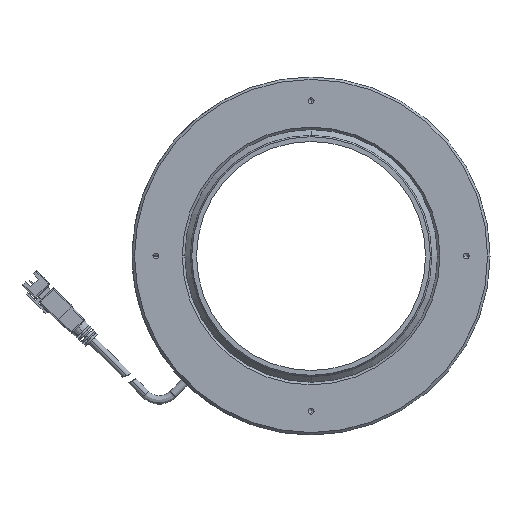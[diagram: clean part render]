
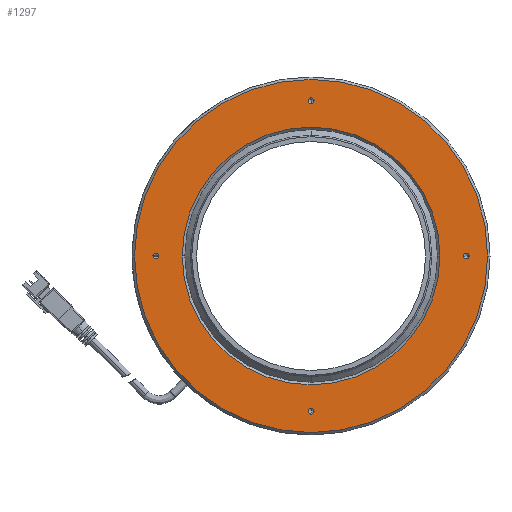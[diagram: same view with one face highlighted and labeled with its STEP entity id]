
A CAD part, front view. The second image highlights one B-rep face of the part: STEP entity #1297.
In plain terms, the highlighted planar face has unit normal (0, -1, 0).
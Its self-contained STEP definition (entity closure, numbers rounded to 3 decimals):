
#191 = ORIENTED_EDGE ( 'NONE', *, *, #9584, .F. ) ;
#343 = CARTESIAN_POINT ( 'NONE',  ( -65., 0., 0. ) ) ;
#394 = VERTEX_POINT ( 'NONE', #12977 ) ;
#458 = CIRCLE ( 'NONE', #7825, 54. ) ;
#492 = DIRECTION ( 'NONE',  ( 0., -1., 0. ) ) ;
#668 = DIRECTION ( 'NONE',  ( 0., 0., -1. ) ) ;
#747 = CARTESIAN_POINT ( 'NONE',  ( 0., 0., 0. ) ) ;
#752 = EDGE_LOOP ( 'NONE', ( #10690, #2687 ) ) ;
#789 = DIRECTION ( 'NONE',  ( 0., 0., 1. ) ) ;
#815 = EDGE_LOOP ( 'NONE', ( #13356, #191 ) ) ;
#874 = FACE_BOUND ( 'NONE', #815, .T. ) ;
#1018 = CARTESIAN_POINT ( 'NONE',  ( -65., 0., 0. ) ) ;
#1083 = DIRECTION ( 'NONE',  ( 1., 0., 0. ) ) ;
#1181 = ORIENTED_EDGE ( 'NONE', *, *, #4880, .F. ) ;
#1297 = ADVANCED_FACE ( 'NONE', ( #6059, #2923, #8156, #874, #12292, #1968 ), #8974, .T. ) ;
#1503 = CARTESIAN_POINT ( 'NONE',  ( 0., 0., 0. ) ) ;
#1519 = EDGE_LOOP ( 'NONE', ( #6631, #8469 ) ) ;
#1575 = DIRECTION ( 'NONE',  ( 0., -1., 0. ) ) ;
#1650 = VERTEX_POINT ( 'NONE', #4889 ) ;
#1721 = EDGE_CURVE ( 'NONE', #1963, #394, #2086, .T. ) ;
#1788 = EDGE_LOOP ( 'NONE', ( #1181, #12168 ) ) ;
#1881 = DIRECTION ( 'NONE',  ( 0., -1., 0. ) ) ;
#1963 = VERTEX_POINT ( 'NONE', #5323 ) ;
#1968 = FACE_BOUND ( 'NONE', #1788, .T. ) ;
#2041 = VERTEX_POINT ( 'NONE', #3402 ) ;
#2060 = CARTESIAN_POINT ( 'NONE',  ( 0., 0., 0. ) ) ;
#2086 = CIRCLE ( 'NONE', #6231, 1.25 ) ;
#2213 = AXIS2_PLACEMENT_3D ( 'NONE', #1018, #12631, #1083 ) ;
#2339 = DIRECTION ( 'NONE',  ( 0., 0., -1. ) ) ;
#2360 = CIRCLE ( 'NONE', #5403, 1.25 ) ;
#2530 = CIRCLE ( 'NONE', #10769, 54. ) ;
#2646 = DIRECTION ( 'NONE',  ( 0., -1., 0. ) ) ;
#2647 = CIRCLE ( 'NONE', #2213, 1.25 ) ;
#2687 = ORIENTED_EDGE ( 'NONE', *, *, #10760, .T. ) ;
#2697 = DIRECTION ( 'NONE',  ( 0., 0., 1. ) ) ;
#2923 = FACE_BOUND ( 'NONE', #11798, .T. ) ;
#2959 = DIRECTION ( 'NONE',  ( 0., -1., 0. ) ) ;
#3026 = EDGE_CURVE ( 'NONE', #1650, #4060, #5433, .T. ) ;
#3092 = AXIS2_PLACEMENT_3D ( 'NONE', #10876, #1575, #10741 ) ;
#3246 = VERTEX_POINT ( 'NONE', #6552 ) ;
#3379 = EDGE_CURVE ( 'NONE', #7114, #8617, #2647, .T. ) ;
#3402 = CARTESIAN_POINT ( 'NONE',  ( 0., 0., -54. ) ) ;
#3597 = ORIENTED_EDGE ( 'NONE', *, *, #3026, .F. ) ;
#3860 = CARTESIAN_POINT ( 'NONE',  ( 0., 0., -65. ) ) ;
#3980 = AXIS2_PLACEMENT_3D ( 'NONE', #2060, #10275, #12244 ) ;
#4060 = VERTEX_POINT ( 'NONE', #5938 ) ;
#4191 = CIRCLE ( 'NONE', #3092, 1.25 ) ;
#4738 = AXIS2_PLACEMENT_3D ( 'NONE', #343, #2646, #4753 ) ;
#4753 = DIRECTION ( 'NONE',  ( 1., 0., 0. ) ) ;
#4759 = DIRECTION ( 'NONE',  ( 0., -1., 0. ) ) ;
#4777 = CARTESIAN_POINT ( 'NONE',  ( 0., 0., 54. ) ) ;
#4786 = CIRCLE ( 'NONE', #12379, 1.25 ) ;
#4880 = EDGE_CURVE ( 'NONE', #2041, #6755, #2530, .T. ) ;
#4889 = CARTESIAN_POINT ( 'NONE',  ( 66.25, 0., 0. ) ) ;
#4941 = CARTESIAN_POINT ( 'NONE',  ( 0., 0., -65. ) ) ;
#5046 = DIRECTION ( 'NONE',  ( 0., -1., 0. ) ) ;
#5323 = CARTESIAN_POINT ( 'NONE',  ( 0., 0., -66.25 ) ) ;
#5371 = VERTEX_POINT ( 'NONE', #6542 ) ;
#5403 = AXIS2_PLACEMENT_3D ( 'NONE', #4941, #2959, #2697 ) ;
#5433 = CIRCLE ( 'NONE', #9547, 1.25 ) ;
#5848 = CARTESIAN_POINT ( 'NONE',  ( 0., 0., 65. ) ) ;
#5938 = CARTESIAN_POINT ( 'NONE',  ( 63.75, 0., 0. ) ) ;
#6013 = AXIS2_PLACEMENT_3D ( 'NONE', #747, #4759, #9035 ) ;
#6042 = DIRECTION ( 'NONE',  ( 0., 0., -1. ) ) ;
#6059 = FACE_BOUND ( 'NONE', #1519, .T. ) ;
#6128 = AXIS2_PLACEMENT_3D ( 'NONE', #5848, #9975, #668 ) ;
#6231 = AXIS2_PLACEMENT_3D ( 'NONE', #3860, #10098, #789 ) ;
#6288 = DIRECTION ( 'NONE',  ( 0., -1., 0. ) ) ;
#6375 = CARTESIAN_POINT ( 'NONE',  ( -63.75, 0., 0. ) ) ;
#6387 = VERTEX_POINT ( 'NONE', #7918 ) ;
#6542 = CARTESIAN_POINT ( 'NONE',  ( 0., 0., -74. ) ) ;
#6552 = CARTESIAN_POINT ( 'NONE',  ( 0., 0., 74. ) ) ;
#6631 = ORIENTED_EDGE ( 'NONE', *, *, #3379, .F. ) ;
#6755 = VERTEX_POINT ( 'NONE', #4777 ) ;
#7013 = AXIS2_PLACEMENT_3D ( 'NONE', #1503, #492, #2339 ) ;
#7114 = VERTEX_POINT ( 'NONE', #6375 ) ;
#7207 = EDGE_CURVE ( 'NONE', #8617, #7114, #10579, .T. ) ;
#7307 = CARTESIAN_POINT ( 'NONE',  ( 65., 0., 0. ) ) ;
#7445 = CIRCLE ( 'NONE', #7013, 74. ) ;
#7552 = VERTEX_POINT ( 'NONE', #7781 ) ;
#7621 = EDGE_CURVE ( 'NONE', #394, #1963, #2360, .T. ) ;
#7781 = CARTESIAN_POINT ( 'NONE',  ( 0., 0., 66.25 ) ) ;
#7825 = AXIS2_PLACEMENT_3D ( 'NONE', #10183, #5046, #13381 ) ;
#7918 = CARTESIAN_POINT ( 'NONE',  ( 0., 0., 63.75 ) ) ;
#8095 = CARTESIAN_POINT ( 'NONE',  ( -66.25, 0., 0. ) ) ;
#8156 = FACE_BOUND ( 'NONE', #13345, .T. ) ;
#8426 = ORIENTED_EDGE ( 'NONE', *, *, #1721, .F. ) ;
#8469 = ORIENTED_EDGE ( 'NONE', *, *, #7207, .F. ) ;
#8617 = VERTEX_POINT ( 'NONE', #8095 ) ;
#8863 = ORIENTED_EDGE ( 'NONE', *, *, #10734, .F. ) ;
#8974 = PLANE ( 'NONE',  #6013 ) ;
#9035 = DIRECTION ( 'NONE',  ( 0., 0., -1. ) ) ;
#9547 = AXIS2_PLACEMENT_3D ( 'NONE', #7307, #6288, #10346 ) ;
#9584 = EDGE_CURVE ( 'NONE', #7552, #6387, #4786, .T. ) ;
#9975 = DIRECTION ( 'NONE',  ( 0., -1., 0. ) ) ;
#10063 = EDGE_CURVE ( 'NONE', #6387, #7552, #12610, .T. ) ;
#10098 = DIRECTION ( 'NONE',  ( 0., -1., 0. ) ) ;
#10126 = CARTESIAN_POINT ( 'NONE',  ( 0., 0., 65. ) ) ;
#10183 = CARTESIAN_POINT ( 'NONE',  ( 0., 0., 0. ) ) ;
#10275 = DIRECTION ( 'NONE',  ( 0., -1., 0. ) ) ;
#10346 = DIRECTION ( 'NONE',  ( -1., 0., 0. ) ) ;
#10579 = CIRCLE ( 'NONE', #4738, 1.25 ) ;
#10690 = ORIENTED_EDGE ( 'NONE', *, *, #10884, .T. ) ;
#10734 = EDGE_CURVE ( 'NONE', #4060, #1650, #4191, .T. ) ;
#10741 = DIRECTION ( 'NONE',  ( -1., 0., 0. ) ) ;
#10760 = EDGE_CURVE ( 'NONE', #5371, #3246, #7445, .T. ) ;
#10769 = AXIS2_PLACEMENT_3D ( 'NONE', #11245, #1881, #6042 ) ;
#10876 = CARTESIAN_POINT ( 'NONE',  ( 65., 0., 0. ) ) ;
#10884 = EDGE_CURVE ( 'NONE', #3246, #5371, #11110, .T. ) ;
#11110 = CIRCLE ( 'NONE', #3980, 74. ) ;
#11143 = DIRECTION ( 'NONE',  ( 0., 0., -1. ) ) ;
#11245 = CARTESIAN_POINT ( 'NONE',  ( 0., 0., 0. ) ) ;
#11798 = EDGE_LOOP ( 'NONE', ( #12748, #8426 ) ) ;
#12168 = ORIENTED_EDGE ( 'NONE', *, *, #12436, .F. ) ;
#12244 = DIRECTION ( 'NONE',  ( 0., 0., -1. ) ) ;
#12292 = FACE_OUTER_BOUND ( 'NONE', #752, .T. ) ;
#12379 = AXIS2_PLACEMENT_3D ( 'NONE', #10126, #12978, #11143 ) ;
#12436 = EDGE_CURVE ( 'NONE', #6755, #2041, #458, .T. ) ;
#12610 = CIRCLE ( 'NONE', #6128, 1.25 ) ;
#12631 = DIRECTION ( 'NONE',  ( 0., -1., 0. ) ) ;
#12748 = ORIENTED_EDGE ( 'NONE', *, *, #7621, .F. ) ;
#12977 = CARTESIAN_POINT ( 'NONE',  ( 0., 0., -63.75 ) ) ;
#12978 = DIRECTION ( 'NONE',  ( 0., -1., 0. ) ) ;
#13345 = EDGE_LOOP ( 'NONE', ( #8863, #3597 ) ) ;
#13356 = ORIENTED_EDGE ( 'NONE', *, *, #10063, .F. ) ;
#13381 = DIRECTION ( 'NONE',  ( 0., 0., -1. ) ) ;
